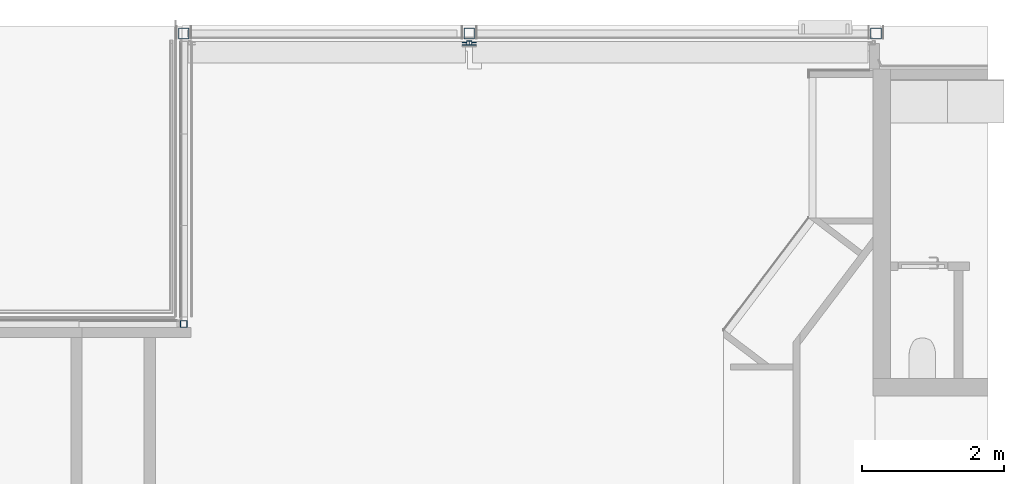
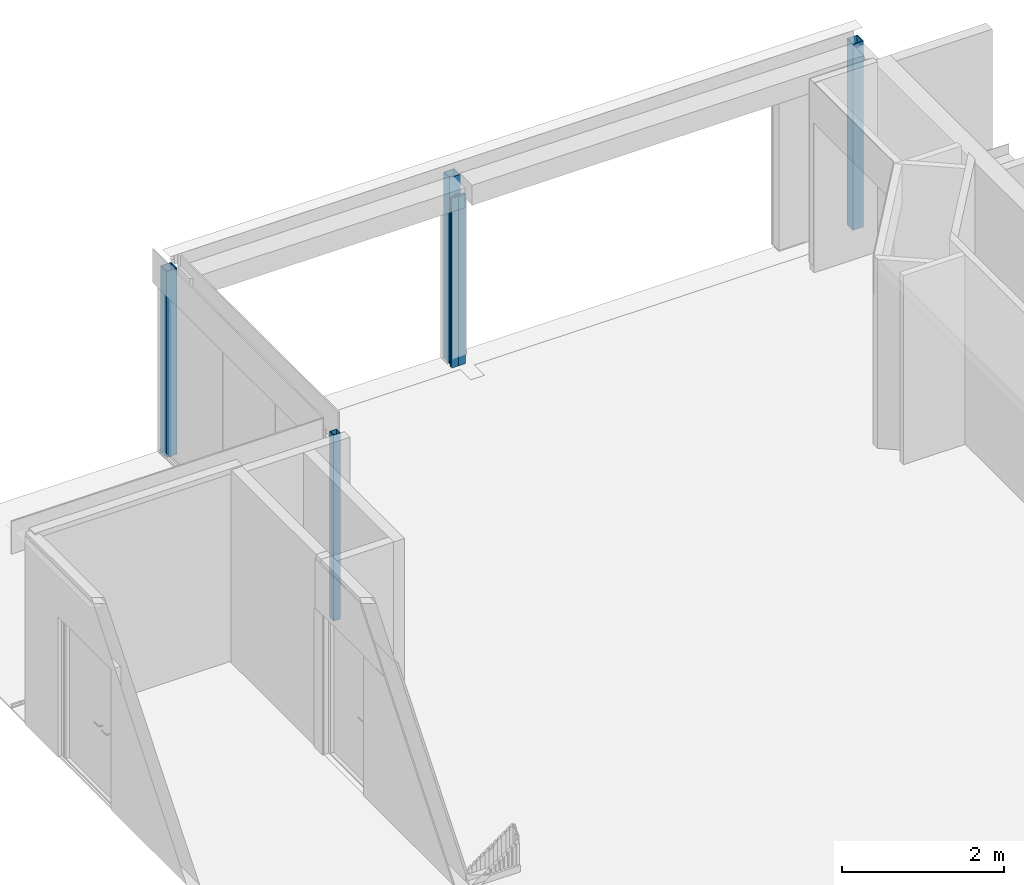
# One storey, part 1 of 37: 6 columns.
"""IFC2X3 building model written with IfcOpenShell, lengths in millimetres."""

from ifc_helpers import new_model, entity, si_unit, converted_unit, derived_unit, direction, frame, origin, origin_with_axes, place, context, subcontext, project, spatial, polyline, outline, extrude, source, transform, mapped, material, type_object, element, save


model = new_model("IFC2X3")

# Units and contexts
model_context = context("Model", 3, precision=0.01, world=frame((0.0, 4.29681676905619e-09, 0.0)), true_north=direction((4.01073788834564e-13, 1.0)))
plan_context = context("Plan", 3, precision=0.01, world=frame((0.0, 4.29681676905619e-09, 0.0)), true_north=direction((4.01073788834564e-13, 1.0)))
body_context = subcontext(model_context, "Body", "Model", "MODEL_VIEW")
ifc_project = project(units=[converted_unit("PLANEANGLEUNIT", "DEGREE", entity("IfcPositiveLengthMeasure", 0.0174532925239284), si_unit("PLANEANGLEUNIT", "RADIAN"), dimensions=[0, 0, 0, 0, 0, 0, 0]), si_unit("AREAUNIT", "SQUARE_METRE"), si_unit("LENGTHUNIT", "METRE", prefix="MILLI"), si_unit("MASSUNIT", "GRAM", prefix="KILO"), si_unit("POWERUNIT", "WATT"), si_unit("PRESSUREUNIT", "PASCAL"), si_unit("FORCEUNIT", "NEWTON", prefix="KILO"), si_unit("ELECTRICVOLTAGEUNIT", "VOLT"), si_unit("ELECTRICCURRENTUNIT", "AMPERE"), si_unit("THERMODYNAMICTEMPERATUREUNIT", "DEGREE_CELSIUS"), si_unit("TIMEUNIT", "SECOND"), si_unit("VOLUMEUNIT", "CUBIC_METRE"), derived_unit("LINEARVELOCITYUNIT", [(si_unit("LENGTHUNIT", "METRE"), 1), (si_unit("TIMEUNIT", "SECOND"), -1)]), derived_unit("VOLUMETRICFLOWRATEUNIT", [(si_unit("VOLUMEUNIT", "CUBIC_METRE"), 1), (si_unit("TIMEUNIT", "SECOND"), -1)]), derived_unit("THERMALTRANSMITTANCEUNIT", [(si_unit("POWERUNIT", "WATT"), 1), (si_unit("THERMODYNAMICTEMPERATUREUNIT", "KELVIN"), -1), (si_unit("AREAUNIT", "SQUARE_METRE"), -1)]), derived_unit("SOUNDPRESSUREUNIT", [(si_unit("PRESSUREUNIT", "PASCAL"), 1)])], contexts=[model_context, plan_context])

# Site, building, storey
site_placement = place(None, origin_with_axes())
site = spatial("IfcSite", under=ifc_project, at=site_placement, Name="ENGM", CompositionType="ELEMENT")
building_placement = place(site_placement, origin_with_axes())
building = spatial("IfcBuilding", under=site, at=building_placement, Name="TS", CompositionType="ELEMENT")
storey_placement = place(building_placement, frame((0.0, 0.0, 210900.0), z_axis=(0.0, 0.0, 1.0), x_axis=(1.0, 0.0, 0.0)))
storey = spatial("IfcBuildingStorey", under=building, at=storey_placement, Name="Nivå F", CompositionType="ELEMENT", Elevation=210900.0)

# Columns
ifc_material = material(Name="_NSW Stål")
column_type_1 = type_object("IfcColumnType", Name="B222 - HUP (Oppsveiset)1:B222 - HUP oppsveiset - 150 x 150 x 6 mm 2", PredefinedType="COLUMN", material=ifc_material)
shared_shape_1 = source(origin(), body_context, "Body", "SweptSolid", [
    extrude(outline(polyline([(-75.0, -75.0), (75.0, -75.0), (75.0, 75.0), (-75.0, 75.0), (-75.0, -75.0)]), holes=[polyline([(-69.0, -69.0), (-69.0, 69.0), (69.0, 69.0), (69.0, -69.0), (-69.0, -69.0)])]), frame((0.0, 0.0, 210900.0), z_axis=(0.0, 0.0, 1.0), x_axis=(0.0, 1.0, 0.0)), (0.0, 0.0, 1.0), 2799.99999999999),
    extrude(outline(polyline([(-75.0, -75.0), (75.0, -75.0), (75.0, 75.0), (-75.0, 75.0), (-75.0, -75.0)]), holes=[polyline([(-69.0, -69.0), (-69.0, 69.0), (69.0, 69.0), (69.0, -69.0), (-69.0, -69.0)])]), frame((0.0, 0.0, 210900.0), z_axis=(0.0, 0.0, 1.0), x_axis=(0.0, 1.0, 0.0)), (0.0, 0.0, 1.0), 2799.99999999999),
])
for number, where, z_axis, x_axis in (
    (1, (524970.000000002, 461799.999999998, -210900.0), (0.0, 0.0, 1.0), (1.0, 0.0, 0.0)),
    (2, (534740.000000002, 461799.999999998, -210900.0), (0.0, 0.0, 1.0), (1.0, 0.0, 0.0)),
    (3, (529000.000000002, 461799.999999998, -210900.0), (0.0, 0.0, 1.0), (1.0, 0.0, 0.0)),
):
    element("IfcColumn", number, at=place(storey_placement, frame(where, z_axis=z_axis, x_axis=x_axis)), inside=storey, type_object=column_type_1, material=ifc_material, Name="B222 - HUP (Oppsveiset)1:B222 - HUP oppsveiset - 150 x 150 x 6 mm 2", ObjectType="B222 - HUP (Oppsveiset)1:B222 - HUP oppsveiset - 150 x 150 x 6 mm 2", context=body_context, shape_type="MappedRepresentation", body=[
        mapped(shared_shape_1, transform((0.0, 0.0, 0.0), scale=1.0)),
    ])
column_type_2 = type_object("IfcColumnType", Name="A243 - Rullegardinskinner1:A243 - Portskinne Trav Val Innl", PredefinedType="COLUMN", material=ifc_material)
shared_shape_2 = source(origin(), body_context, "Body", "SweptSolid", [
    extrude(outline(polyline([(-14.2857142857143, -34.8571428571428), (-8.2857142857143, -34.8571428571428), (-8.2857142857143, -24.8571428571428), (-11.2857142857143, -24.8571428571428), (-11.2857142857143, 27.1428571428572), (22.7142857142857, 27.1428571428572), (22.7142857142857, -24.857142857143), (19.7142857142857, -24.857142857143), (19.7142857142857, -34.8571428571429), (25.7142857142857, -34.8571428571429), (25.7142857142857, 65.1428571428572), (-34.2857142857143, 65.1428571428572), (-34.2857142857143, 27.1428571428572), (-14.2857142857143, 27.1428571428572), (-14.2857142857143, -34.8571428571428)]), holes=[polyline([(-31.2857142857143, 62.1428571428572), (22.7142857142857, 62.1428571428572), (22.7142857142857, 30.1428571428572), (-31.2857142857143, 30.1428571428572), (-31.2857142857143, 62.1428571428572)])]), frame((-5.71428571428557, -65.1428571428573, 210900.0)), (0.0, 0.0, 1.0), 2550.00000000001),
])
column_1_placement = place(storey_placement, frame((529000.000000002, 461654.499999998, -210900.0), z_axis=(0.0, 0.0, 1.0), x_axis=(0.0, -1.0, 0.0)))
element("IfcColumn", 4, at=column_1_placement, inside=storey, type_object=column_type_2, material=ifc_material, Name="A243 - Rullegardinskinner1:A243 - Portskinne Trav Val Innl", ObjectType="A243 - Rullegardinskinner1:A243 - Portskinne Trav Val Innl", context=body_context, shape_type="MappedRepresentation", body=[
    mapped(shared_shape_2, transform((0.0, 0.0, 0.0), scale=1.0)),
])
column_type_3 = type_object("IfcColumnType", Name="A243 - Rullegardinskinner1:A243 - Portskinne Trav Val Innl", PredefinedType="COLUMN", material=ifc_material)
shared_shape_3 = source(origin(), body_context, "Body", "SweptSolid", [
    extrude(outline(polyline([(-34.8571428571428, 14.2857142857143), (-34.8571428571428, 8.2857142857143), (-24.8571428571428, 8.2857142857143), (-24.8571428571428, 11.2857142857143), (27.1428571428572, 11.2857142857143), (27.1428571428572, -22.7142857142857), (-24.857142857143, -22.7142857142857), (-24.857142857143, -19.7142857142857), (-34.857142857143, -19.7142857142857), (-34.857142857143, -25.7142857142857), (65.1428571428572, -25.7142857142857), (65.1428571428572, 34.2857142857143), (27.1428571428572, 34.2857142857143), (27.1428571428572, 14.2857142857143), (-34.8571428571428, 14.2857142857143)]), holes=[polyline([(62.1428571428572, 31.2857142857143), (62.1428571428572, -22.7142857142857), (30.1428571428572, -22.7142857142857), (30.1428571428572, 31.2857142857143), (62.1428571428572, 31.2857142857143)])]), frame((-5.71428571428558, 65.1428571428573, 210900.0), z_axis=(0.0, 0.0, -1.0), x_axis=(0.0, -1.0, 0.0)), (0.0, 0.0, -1.0), 2550.00000000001),
])
column_2_placement = place(storey_placement, frame((529000.000000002, 461654.499999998, -210900.0), z_axis=(0.0, 0.0, 1.0), x_axis=(0.0, -1.0, 0.0)))
element("IfcColumn", 5, at=column_2_placement, inside=storey, type_object=column_type_3, material=ifc_material, Name="A243 - Rullegardinskinner1:A243 - Portskinne Trav Val Innl", ObjectType="A243 - Rullegardinskinner1:A243 - Portskinne Trav Val Innl", context=body_context, shape_type="MappedRepresentation", body=[
    mapped(shared_shape_3, transform((0.0, 0.0, 0.0), scale=1.0)),
])
column_type_4 = type_object("IfcColumnType", Name="B222 - HUP (Oppsveiset)1:B222 - HUP oppsveiset - 100 x 100 x 8 mm", PredefinedType="COLUMN", material=ifc_material)
shared_shape_4 = source(origin(), body_context, "Body", "SweptSolid", [
    extrude(outline(polyline([(-50.0, -50.0), (50.0, -50.0), (50.0, 50.0), (-50.0, 50.0), (-50.0, -50.0)]), holes=[polyline([(-42.0, -42.0), (-42.0, 42.0), (42.0, 42.0), (42.0, -42.0), (-42.0, -42.0)])]), frame((0.0, 0.0, 210900.0), z_axis=(0.0, 0.0, 1.0), x_axis=(0.0, 1.0, 0.0)), (0.0, 0.0, 1.0), 2799.99999999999),
    extrude(outline(polyline([(-50.0, -50.0), (50.0, -50.0), (50.0, 50.0), (-50.0, 50.0), (-50.0, -50.0)]), holes=[polyline([(-42.0, -42.0), (-42.0, 42.0), (42.0, 42.0), (42.0, -42.0), (-42.0, -42.0)])]), frame((0.0, 0.0, 210900.0), z_axis=(0.0, 0.0, 1.0), x_axis=(0.0, 1.0, 0.0)), (0.0, 0.0, 1.0), 2799.99999999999),
])
column_3_placement = place(storey_placement, frame((524970.000000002, 457699.999999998, -210900.0), z_axis=(0.0, 0.0, 1.0), x_axis=(1.0, 0.0, 0.0)))
element("IfcColumn", 6, at=column_3_placement, inside=storey, type_object=column_type_4, material=ifc_material, Name="B222 - HUP (Oppsveiset)1:B222 - HUP oppsveiset - 100 x 100 x 8 mm", ObjectType="B222 - HUP (Oppsveiset)1:B222 - HUP oppsveiset - 100 x 100 x 8 mm", context=body_context, shape_type="MappedRepresentation", body=[
    mapped(shared_shape_4, transform((0.0, 0.0, 0.0), scale=1.0)),
])

save(model, "model.ifc")
